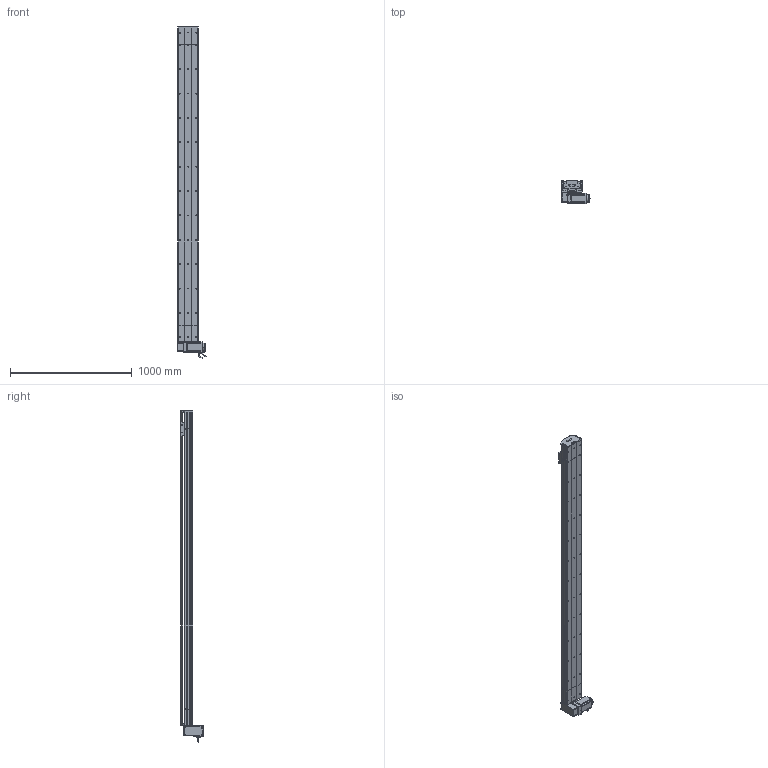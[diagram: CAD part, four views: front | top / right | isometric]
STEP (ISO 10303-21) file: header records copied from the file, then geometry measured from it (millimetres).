
FILE_DESCRIPTION (( 'STEP AP214' ), '1' );
FILE_NAME ('D17 TBN RU S2300.STEP', '2010-06-30T11:45:23', ( 'Christophe Gaillard' ), ( 'SGA' ), 'SwSTEP 2.0', 'SolidWorks 2010', '' );
FILE_SCHEMA (( 'AUTOMOTIVE_DESIGN' ));
Length unit declared in the file: millimetre
Products named in the file (40): plaque de  bout tail D17B_Default; poulie tail_Default; corp D17B 2300_Default; cache arbre D17_Default; guide D17; Renvoi RU_Default; Tail D17B+100_Default; tete d''axe poulie D17B; codeur 90BLDC125-640; chariot D17 TBN; Conecteur_Default; vis M5 L70_Default; Plaque racord D17_Default; corp tail D17B+100_Default; Rail D17B; Couroie tail D17B_Default; vis M5 L8 90°_Default; couvercle D17B_Default; vis M5 L5_Default; poulie head_Default; couroie head D17_Default; Moteur motionking 90BLDC125A-640; couvercle D17B course L2300_Default; avant 90BLDC125A-640; Head RU D17B_Default; corps 90BLDC125A-640; corpl head D17 _Default; couvercle D17B head_Default; plaque de  bout head D17B RU_Default; Arbre+rail head D17B; cache D17_Default; vis M5 L12_Default; Vis M5 L16-2_Default; vis M5 L16_Default; Conecteur2_Default; vis M5 L25_Default; Chariot D17 TBN; D17 TBN RU S2300; course 2300 D17B_Default; Couroie+ rail D17 Course 2300 
Assembly tree (66 placements, depth 4):
  D17 TBN RU S2300
    chariot D17 TBN
      guide D17  x2
      Chariot D17 TBN
    course 2300 D17B_Default
      corp D17B 2300_Default
      Couroie+ rail D17 Course 2300 
      couvercle D17B course L2300_Default
    Tail D17B+100_Default
      tete d''axe poulie D17B
      vis M5 L25_Default  x2
      Rail D17B
      vis M5 L8 90°_Default  x2
      vis M5 L12_Default  x4
      corp tail D17B+100_Default
      couvercle D17B_Default
      plaque de  bout tail D17B_Default
      poulie tail_Default
      Couroie tail D17B_Default
    Head RU D17B_Default
      vis M5 L5_Default  x4
      vis M5 L12_Default  x8
      vis M5 L70_Default  x4
      vis M5 L25_Default  x2
      vis M5 L16_Default  x2
      Vis M5 L16-2_Default  x4
      cache arbre D17_Default
      poulie head_Default
      corpl head D17 _Default
      couroie head D17_Default
      couvercle D17B head_Default
      cache D17_Default  x2
      Arbre+rail head D17B
      Plaque racord D17_Default
      plaque de  bout head D17B RU_Default
      Moteur motionking 90BLDC125A-640
        Conecteur_Default
        Conecteur2_Default
        corps 90BLDC125A-640
        avant 90BLDC125A-640
        codeur 90BLDC125-640
      Renvoi RU_Default
Bounding box: 245.2 x 188.65 x 2723.95 mm (x, y, z)
Volume: 15728354.1 mm3; surface area: 4558904.9 mm2
Topology: 89 solids, 89 shells, 2619 faces, 6711 edges, 4326 vertices
Faces by surface type: plane 1537, cylinder 785, bspline 136, cone 80, torus 77, sphere 4
Entity records: 85101 total; most frequent: CARTESIAN_POINT 25285, ORIENTED_EDGE 10594, DIRECTION 9998, EDGE_CURVE 5297, VECTOR 3492, LINE 3492, VERTEX_POINT 3470, AXIS2_PLACEMENT_3D 3253
